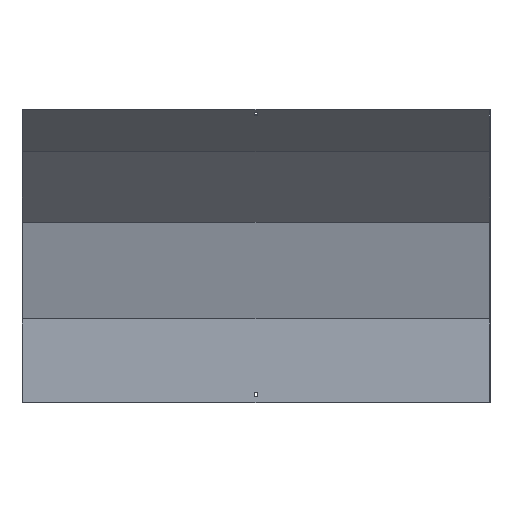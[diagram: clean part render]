
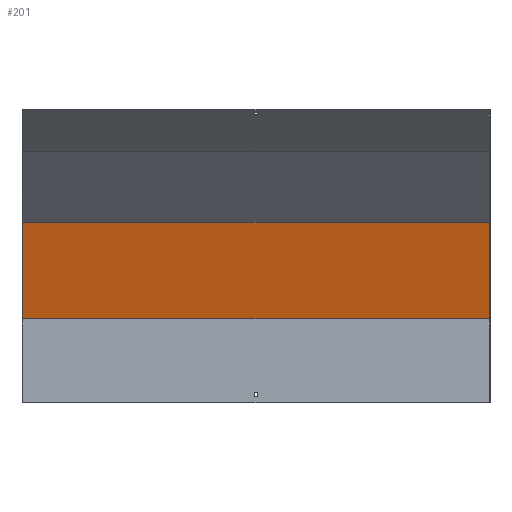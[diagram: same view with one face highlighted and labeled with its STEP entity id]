
A CAD part, front view. The second image highlights one B-rep face of the part: STEP entity #201.
In plain terms, the highlighted planar face has unit normal (0, -0.966, -0.259).
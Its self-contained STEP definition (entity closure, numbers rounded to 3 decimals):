
#6 = CARTESIAN_POINT ( 'NONE',  ( 450., 57.87, 15.506 ) ) ;
#16 = EDGE_CURVE ( 'NONE', #205, #582, #735, .T. ) ;
#33 = DIRECTION ( 'NONE',  ( -1., 0., 0. ) ) ;
#71 = VERTEX_POINT ( 'NONE', #408 ) ;
#121 = DIRECTION ( 'NONE',  ( 0., -0.259, 0.966 ) ) ;
#139 = DIRECTION ( 'NONE',  ( 0., 0.259, -0.966 ) ) ;
#176 = EDGE_LOOP ( 'NONE', ( #716, #622, #810, #516 ) ) ;
#201 = ADVANCED_FACE ( 'NONE', ( #892 ), #447, .T. ) ;
#205 = VERTEX_POINT ( 'NONE', #747 ) ;
#216 = VECTOR ( 'NONE', #243, 1000. ) ;
#226 = AXIS2_PLACEMENT_3D ( 'NONE', #367, #537, #139 ) ;
#240 = EDGE_CURVE ( 'NONE', #401, #205, #844, .T. ) ;
#243 = DIRECTION ( 'NONE',  ( -1., 0., 0. ) ) ;
#297 = VECTOR ( 'NONE', #33, 1000. ) ;
#312 = VECTOR ( 'NONE', #121, 1000. ) ;
#367 = CARTESIAN_POINT ( 'NONE',  ( 451.5, 17.87, 164.788 ) ) ;
#381 = LINE ( 'NONE', #6, #509 ) ;
#401 = VERTEX_POINT ( 'NONE', #404 ) ;
#404 = CARTESIAN_POINT ( 'NONE',  ( 450., 18.5, 162.436 ) ) ;
#408 = CARTESIAN_POINT ( 'NONE',  ( 450., -31.295, 348.273 ) ) ;
#447 = PLANE ( 'NONE',  #226 ) ;
#461 = CARTESIAN_POINT ( 'NONE',  ( 451.5, -31.295, 348.273 ) ) ;
#509 = VECTOR ( 'NONE', #609, 1000. ) ;
#516 = ORIENTED_EDGE ( 'NONE', *, *, #764, .T. ) ;
#537 = DIRECTION ( 'NONE',  ( 0., -0.966, -0.259 ) ) ;
#582 = VERTEX_POINT ( 'NONE', #756 ) ;
#603 = EDGE_CURVE ( 'NONE', #401, #71, #381, .T. ) ;
#609 = DIRECTION ( 'NONE',  ( 0., -0.259, 0.966 ) ) ;
#622 = ORIENTED_EDGE ( 'NONE', *, *, #240, .F. ) ;
#716 = ORIENTED_EDGE ( 'NONE', *, *, #16, .F. ) ;
#735 = LINE ( 'NONE', #878, #312 ) ;
#747 = CARTESIAN_POINT ( 'NONE',  ( -450., 18.5, 162.436 ) ) ;
#756 = CARTESIAN_POINT ( 'NONE',  ( -450., -31.295, 348.273 ) ) ;
#764 = EDGE_CURVE ( 'NONE', #71, #582, #770, .T. ) ;
#770 = LINE ( 'NONE', #461, #216 ) ;
#810 = ORIENTED_EDGE ( 'NONE', *, *, #603, .T. ) ;
#844 = LINE ( 'NONE', #923, #297 ) ;
#878 = CARTESIAN_POINT ( 'NONE',  ( -450., 57.87, 15.506 ) ) ;
#892 = FACE_OUTER_BOUND ( 'NONE', #176, .T. ) ;
#923 = CARTESIAN_POINT ( 'NONE',  ( 451.5, 18.5, 162.436 ) ) ;
